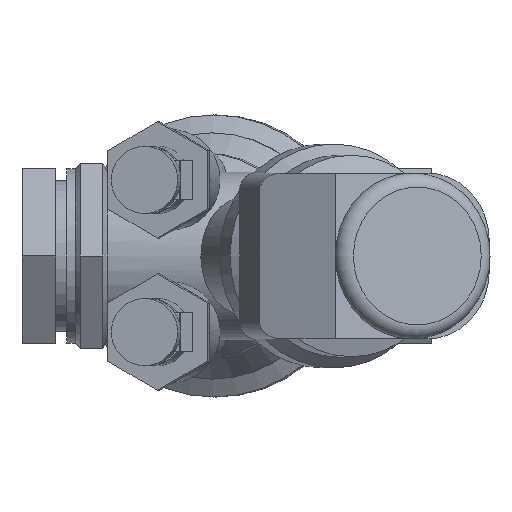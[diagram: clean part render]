
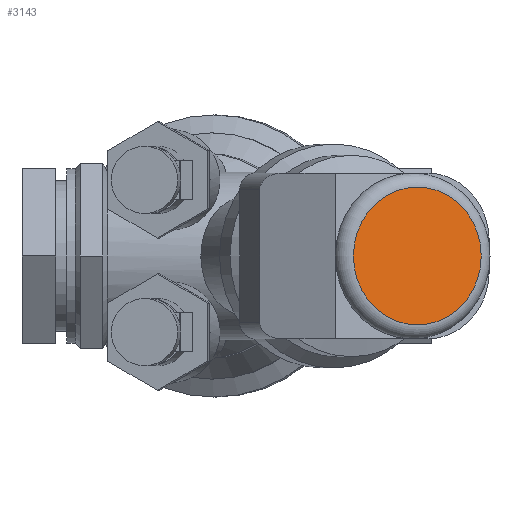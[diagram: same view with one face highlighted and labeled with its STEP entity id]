
A CAD part, front view. The second image highlights one B-rep face of the part: STEP entity #3143.
In plain terms, the highlighted planar face has unit normal (0.375, -0.927, 0).
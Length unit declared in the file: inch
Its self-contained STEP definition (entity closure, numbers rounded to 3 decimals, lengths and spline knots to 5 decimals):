
#152=CIRCLE('',#3482,0.61577);
#153=CIRCLE('',#3483,0.61577);
#336=FACE_OUTER_BOUND('',#518,.T.);
#518=EDGE_LOOP('',(#2176,#2177));
#1278=VERTEX_POINT('',#5208);
#1279=VERTEX_POINT('',#5209);
#1615=EDGE_CURVE('',#1278,#1279,#152,.T.);
#1616=EDGE_CURVE('',#1279,#1278,#153,.T.);
#2176=ORIENTED_EDGE('',*,*,#1615,.T.);
#2177=ORIENTED_EDGE('',*,*,#1616,.T.);
#2823=PLANE('',#3485);
#3143=ADVANCED_FACE('',(#336),#2823,.T.);
#3482=AXIS2_PLACEMENT_3D('',#5210,#4020,#4021);
#3483=AXIS2_PLACEMENT_3D('',#5211,#4022,#4023);
#3485=AXIS2_PLACEMENT_3D('',#5213,#4026,#4027);
#4020=DIRECTION('center_axis',(0.375,-0.927,0.));
#4021=DIRECTION('ref_axis',(0.927,0.375,0.));
#4022=DIRECTION('center_axis',(0.375,-0.927,0.));
#4023=DIRECTION('ref_axis',(0.927,0.375,0.));
#4026=DIRECTION('center_axis',(0.375,-0.927,0.));
#4027=DIRECTION('ref_axis',(0.,0.,-1.));
#5208=CARTESIAN_POINT('',(1.13011,-4.4409,0.));
#5209=CARTESIAN_POINT('',(1.70104,-4.21023,0.61577));
#5210=CARTESIAN_POINT('Origin',(1.70104,-4.21023,0.));
#5211=CARTESIAN_POINT('Origin',(1.70104,-4.21023,0.));
#5213=CARTESIAN_POINT('Origin',(1.70104,-4.21023,0.));
